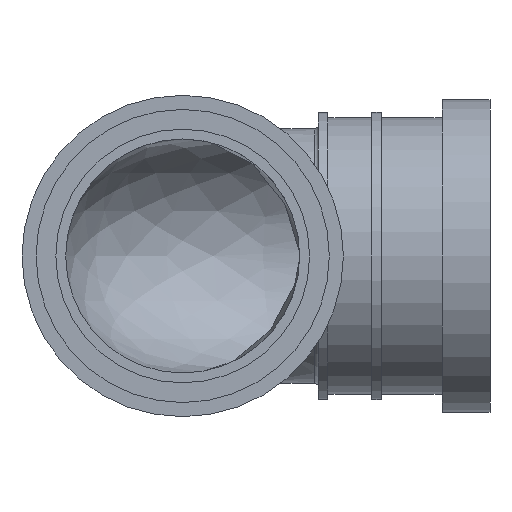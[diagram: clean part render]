
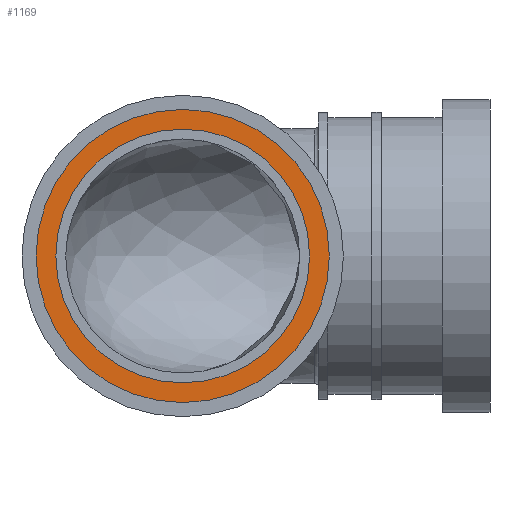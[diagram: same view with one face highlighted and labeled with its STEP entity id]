
A CAD part, front view. The second image highlights one B-rep face of the part: STEP entity #1169.
In plain terms, the highlighted planar face has unit normal (0, -1, 0).
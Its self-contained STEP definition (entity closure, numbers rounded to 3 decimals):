
#143=FACE_BOUND($,#340,.T.);
#247=FACE_OUTER_BOUND($,#339,.T.);
#339=EDGE_LOOP($,(#818));
#340=EDGE_LOOP($,(#819));
#531=CIRCLE($,#1289,45.);
#532=CIRCLE($,#1291,52.);
#610=VERTEX_POINT($,#1834);
#611=VERTEX_POINT($,#1837);
#705=EDGE_CURVE($,#610,#610,#531,.T.);
#706=EDGE_CURVE($,#611,#611,#532,.T.);
#818=ORIENTED_EDGE($,*,*,#706,.F.);
#819=ORIENTED_EDGE($,*,*,#705,.T.);
#1067=PLANE($,#1290);
#1169=ADVANCED_FACE($,(#247,#143),#1067,.T.);
#1289=AXIS2_PLACEMENT_3D($,#1835,#1475,#1476);
#1290=AXIS2_PLACEMENT_3D($,#1836,#1477,#1478);
#1291=AXIS2_PLACEMENT_3D($,#1838,#1479,#1480);
#1475=DIRECTION('center_axis',(0.,1.,0.));
#1476=DIRECTION('ref_axis',(-1.,0.,0.));
#1477=DIRECTION('center_axis',(0.,-1.,0.));
#1478=DIRECTION('ref_axis',(0.,0.,-1.));
#1479=DIRECTION('center_axis',(0.,1.,0.));
#1480=DIRECTION('ref_axis',(-1.,0.,0.));
#1834=CARTESIAN_POINT('',(-45.,60.,0.));
#1835=CARTESIAN_POINT('Origin',(0.,60.,0.));
#1836=CARTESIAN_POINT('Origin',(-48.5,60.,0.));
#1837=CARTESIAN_POINT('',(-52.,60.,0.));
#1838=CARTESIAN_POINT('Origin',(0.,60.,0.));
